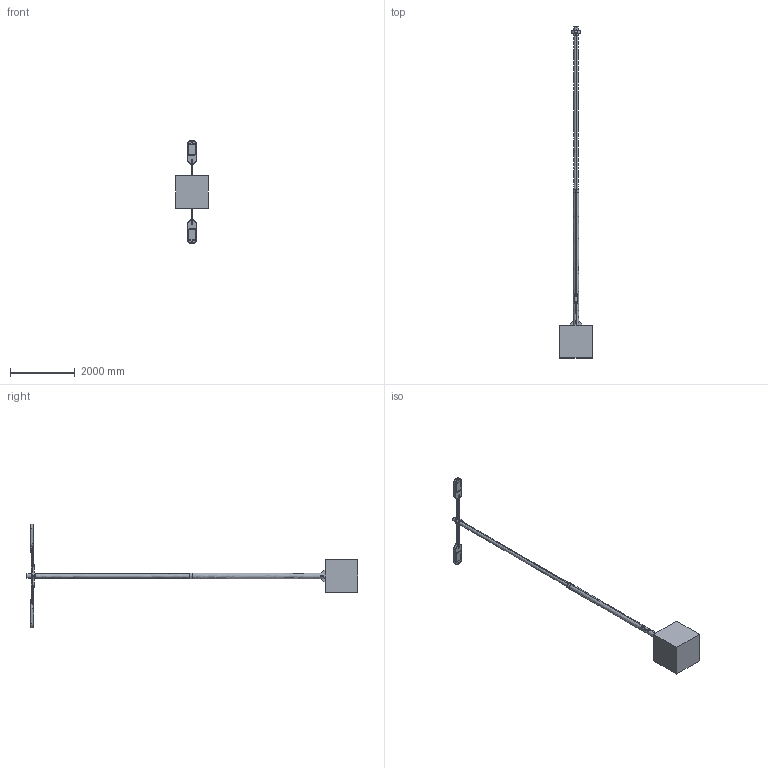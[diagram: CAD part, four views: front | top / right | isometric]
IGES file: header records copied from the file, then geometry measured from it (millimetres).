
Start section: SolidWorks IGES file using analytic representation for surfaces
Global section: file name: C:\SANTACOLE_PDM\Proyectos Catálogo\PROD-P11_014 -- CANDELA LED\6_Técnico comercial\3D WEB\IGES\Farola Candela LED 920cm 2S 2L MISMA ALTURA BRAZO MEDIO.IGS; native system: SolidWorks 2013; preprocessor: SolidWorks 2013; author: jordi.munoz; date: 150527.164640; units: millimetre
Bounding box: 1000 x 10224.5 x 3202.76 mm (x, y, z)
Surface area: 18267626.4 mm2 (no closed solid volume)
Topology: 0 solids, 0 shells, 3453 faces, 32379 edges, 32338 vertices
Faces by surface type: bspline 2408, revolution 1045
